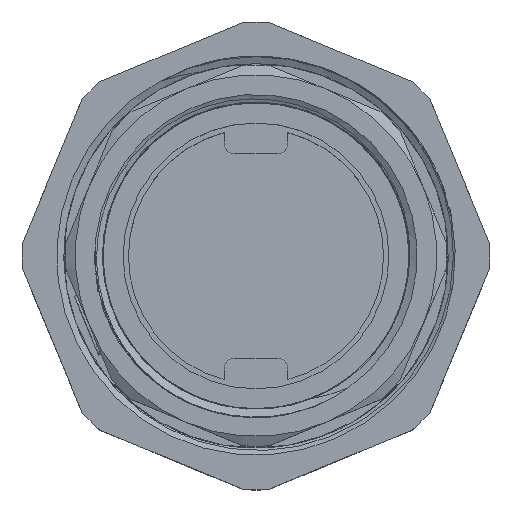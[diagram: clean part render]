
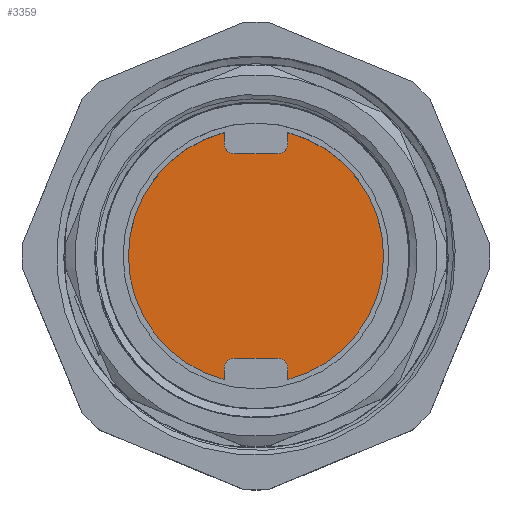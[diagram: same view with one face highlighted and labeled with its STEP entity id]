
A CAD part, top view. The second image highlights one B-rep face of the part: STEP entity #3359.
In plain terms, the highlighted planar face has unit normal (0, 0, -1).
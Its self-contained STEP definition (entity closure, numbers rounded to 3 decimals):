
#52=FACE_BOUND('',#680,.T.);
#106=PLANE('',#3685);
#294=CIRCLE('',#3683,27.978);
#295=CIRCLE('',#3686,27.938);
#296=CIRCLE('',#3687,27.938);
#475=FACE_OUTER_BOUND('',#679,.T.);
#679=EDGE_LOOP('',(#2879,#2880,#2881));
#680=EDGE_LOOP('',(#2882,#2883));
#842=B_SPLINE_CURVE_WITH_KNOTS('',3,(#16364,#16365,#16366,#16367,#16368,
#16369),.UNSPECIFIED.,.F.,.F.,(4,2,4),(0.38,0.439,
0.934),.UNSPECIFIED.);
#848=B_SPLINE_CURVE_WITH_KNOTS('',3,(#18696,#18697,#18698,#18699,#18700,
#18701),.UNSPECIFIED.,.F.,.F.,(4,2,4),(0.,0.857,0.958),
 .UNSPECIFIED.);
#1523=VERTEX_POINT('',#15279);
#1524=VERTEX_POINT('',#15284);
#1528=VERTEX_POINT('',#16223);
#1532=VERTEX_POINT('',#20457);
#1533=VERTEX_POINT('',#20458);
#1980=EDGE_CURVE('',#1524,#1523,#294,.T.);
#1986=EDGE_CURVE('',#1523,#1528,#842,.T.);
#1992=EDGE_CURVE('',#1528,#1524,#848,.T.);
#1998=EDGE_CURVE('',#1532,#1533,#295,.T.);
#1999=EDGE_CURVE('',#1533,#1532,#296,.T.);
#2879=ORIENTED_EDGE('',*,*,#1980,.T.);
#2880=ORIENTED_EDGE('',*,*,#1986,.T.);
#2881=ORIENTED_EDGE('',*,*,#1992,.T.);
#2882=ORIENTED_EDGE('',*,*,#1998,.F.);
#2883=ORIENTED_EDGE('',*,*,#1999,.F.);
#3359=ADVANCED_FACE('',(#475,#52),#106,.T.);
#3683=AXIS2_PLACEMENT_3D('',#15285,#4335,#4336);
#3685=AXIS2_PLACEMENT_3D('',#20456,#4339,#4340);
#3686=AXIS2_PLACEMENT_3D('',#20459,#4341,#4342);
#3687=AXIS2_PLACEMENT_3D('',#20460,#4343,#4344);
#4335=DIRECTION('center_axis',(0.,0.,-1.));
#4336=DIRECTION('ref_axis',(0.,1.,0.));
#4339=DIRECTION('center_axis',(0.,0.,-1.));
#4340=DIRECTION('ref_axis',(-1.,0.,0.));
#4341=DIRECTION('center_axis',(0.,0.,-1.));
#4342=DIRECTION('ref_axis',(1.,0.,0.));
#4343=DIRECTION('center_axis',(0.,0.,-1.));
#4344=DIRECTION('ref_axis',(1.,0.,0.));
#15279=CARTESIAN_POINT('',(-9.29,26.391,0.));
#15284=CARTESIAN_POINT('',(9.441,26.337,0.));
#15285=CARTESIAN_POINT('Origin',(0.,0.,0.));
#16223=CARTESIAN_POINT('',(0.08,27.938,0.));
#16364=CARTESIAN_POINT('Ctrl Pts',(-9.29,26.391,0.));
#16365=CARTESIAN_POINT('Ctrl Pts',(-8.985,26.495,0.));
#16366=CARTESIAN_POINT('Ctrl Pts',(-8.671,26.596,0.));
#16367=CARTESIAN_POINT('Ctrl Pts',(-5.611,27.526,0.));
#16368=CARTESIAN_POINT('Ctrl Pts',(-2.777,27.946,0.));
#16369=CARTESIAN_POINT('Ctrl Pts',(0.08,27.938,
0.));
#18696=CARTESIAN_POINT('Ctrl Pts',(0.08,27.938,
0.));
#18697=CARTESIAN_POINT('Ctrl Pts',(2.936,27.93,0.));
#18698=CARTESIAN_POINT('Ctrl Pts',(5.768,27.494,0.));
#18699=CARTESIAN_POINT('Ctrl Pts',(8.823,26.546,0.));
#18700=CARTESIAN_POINT('Ctrl Pts',(9.137,26.443,0.));
#18701=CARTESIAN_POINT('Ctrl Pts',(9.441,26.337,0.));
#20456=CARTESIAN_POINT('Origin',(0.,27.938,0.));
#20457=CARTESIAN_POINT('',(0.,27.938,0.));
#20458=CARTESIAN_POINT('',(0.,-27.938,0.));
#20459=CARTESIAN_POINT('Origin',(0.,0.,0.));
#20460=CARTESIAN_POINT('Origin',(0.,0.,0.));
